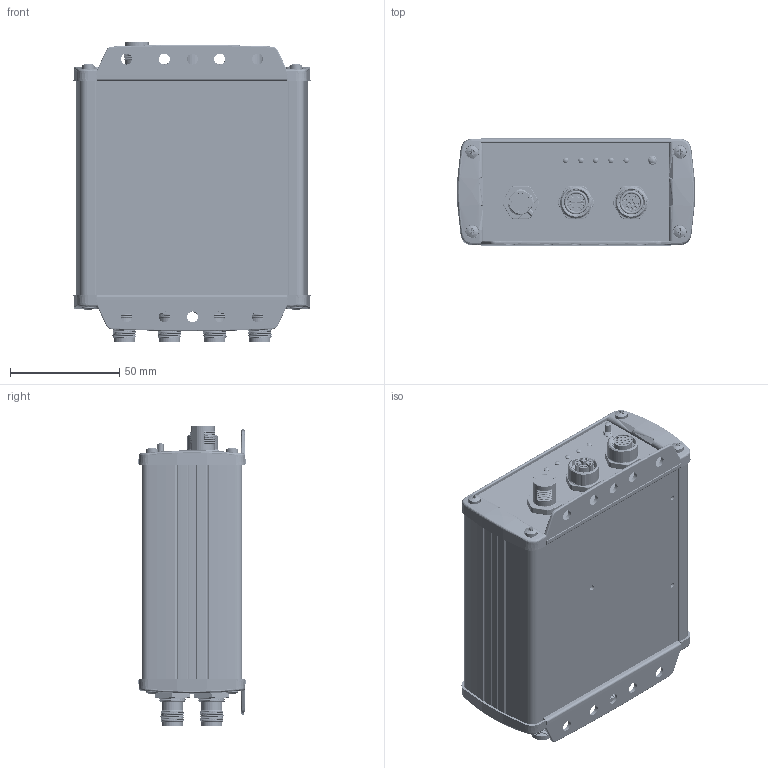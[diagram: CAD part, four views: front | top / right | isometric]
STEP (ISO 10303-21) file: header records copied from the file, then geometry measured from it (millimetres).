
FILE_DESCRIPTION(/* description */ ('Unknown'),/* implementation_level */ '2;1');
FILE_NAME(/* name */ 'R4320P_PerCliente',/* time_stamp */ '2020-07-22T13:49:43+02:00',/* author */ ('Unknown'),/* organization */ ('Unknown'),/* preprocessor_version */ 'ST-DEVELOPER v16.7',/* originating_system */ 'Solid Edge',/* authorisation */ 'Unknown');
FILE_SCHEMA (('AUTOMOTIVE_DESIGN {1 0 10303 214 3 1 1}'));
Products named in the file (29): R4320P_PerCliente; TEKAM 31L-E; BOXTEKAL31L_Inferiore; BOXTEKAL31L_Superiore; GUAR_D_100_100; TKAMSK3; O-RING03X1; VAU004X1-2_Tapping screw DIN 7049-ST2.9x13-C-H-C; MPT3_Pann_Post; MPT3_Pann_Front; 39-352_asm; 39W2121-2_FORMED; 39Z1106-1; 39XX2013-1_ASM; 39B2051; 39L1052-FORMED; DAAA009AAAAA; 1552243; BS-0000000M100_SW0001; 415450; KCPB000AA019; TRM_SRF; Ghiera_1551493; JPTH4PH2130M0D120_M12CIRC; JPTH8PH1920F0D110_M12CIRC; JPTH12PH1950F0D100_M12CIRC
Assembly tree (52 placements, depth 4):
  R4320P_PerCliente
    TEKAM 31L-E
      BOXTEKAL31L_Inferiore
      BOXTEKAL31L_Superiore
      GUAR_D_100_100  x2
      TKAMSK3  x2
      O-RING03X1  x8
      VAU004X1-2_Tapping screw DIN 7049-ST2.9x13-C-H-C  x8
      MPT3_Pann_Post
      MPT3_Pann_Front
    39-352_asm
      39W2121-2_FORMED
      39Z1106-1
      39XX2013-1_ASM
        39B2051
        39L1052-FORMED  x2
    DAAA009AAAAA  x5
    1552243
      BS-0000000M100_SW0001
      415450
    KCPB000AA019  x4
      TRM_SRF
    1552243
      BS-0000000M100_SW0001
      415450
    Ghiera_1551493
    JPTH4PH2130M0D120_M12CIRC
    JPTH8PH1920F0D110_M12CIRC
    JPTH12PH1950F0D100_M12CIRC
Bounding box: 108.53 x 49.58 x 137.7 mm (x, y, z)
Volume: 99134.3 mm3; surface area: 134512 mm2
Topology: 55 solids, 55 shells, 4666 faces, 12704 edges, 8295 vertices
Faces by surface type: plane 1868, cylinder 1356, bspline 817, cone 310, torus 239, sphere 76
Full cylindrical faces by diameter (mm): 0.28 x1, 0.4 x1, 0.6 x12, 0.7 x8, 0.75 x2, 0.8 x8, 0.85 x1, 0.9 x12, 1 x22, 1.05 x8, 1.1 x12, 1.2 x8, 1.24 x8, 1.331 x4, 1.4 x3, 1.5 x4, 1.6 x4, 1.64 x4, 1.7 x8, 1.9 x5, 2 x9, 2.057 x1, 2.1 x4, 2.4 x4, 2.5 x8, 2.794 x2, 2.896 x1, 2.9 x8, 3 x5, 3.3 x16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
Entity records: 138152 total; most frequent: CARTESIAN_POINT 45772, ORIENTED_EDGE 16858, DIRECTION 15038, EDGE_CURVE 8429, VERTEX_POINT 5612, AXIS2_PLACEMENT_3D 5518, FACE_BOUND 4127, EDGE_LOOP 4115
